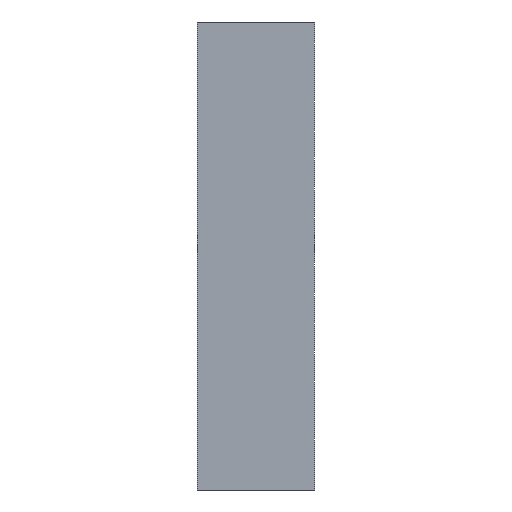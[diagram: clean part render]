
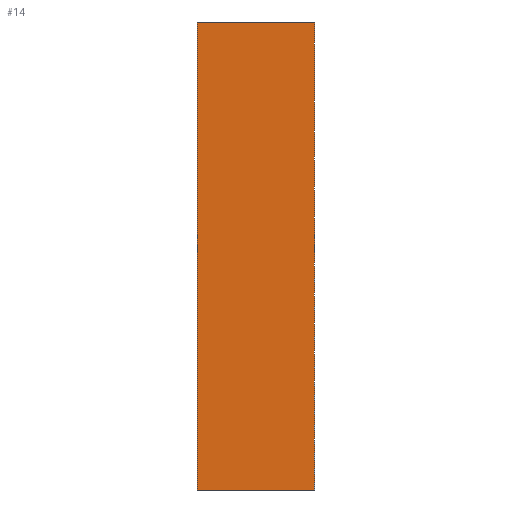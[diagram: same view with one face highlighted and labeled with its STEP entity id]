
A CAD part, front view. The second image highlights one B-rep face of the part: STEP entity #14.
In plain terms, the highlighted planar face has unit normal (0, -1, 0).
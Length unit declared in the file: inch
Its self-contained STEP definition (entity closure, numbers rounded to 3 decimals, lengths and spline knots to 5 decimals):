
#14=ADVANCED_FACE('',(#20),#88,.T.);
#20=FACE_OUTER_BOUND('',#26,.T.);
#26=EDGE_LOOP('',(#32,#33,#34,#35));
#32=ORIENTED_EDGE('',*,*,#56,.T.);
#33=ORIENTED_EDGE('',*,*,#65,.T.);
#34=ORIENTED_EDGE('',*,*,#60,.F.);
#35=ORIENTED_EDGE('',*,*,#64,.F.);
#56=EDGE_CURVE('',#80,#81,#68,.T.);
#60=EDGE_CURVE('',#84,#85,#72,.T.);
#64=EDGE_CURVE('',#80,#84,#76,.T.);
#65=EDGE_CURVE('',#81,#85,#77,.T.);
#68=B_SPLINE_CURVE_WITH_KNOTS('',1,(#217,#218),.UNSPECIFIED.,.F.,.F.,(2,
2),(0.,2.),.UNSPECIFIED.);
#72=B_SPLINE_CURVE_WITH_KNOTS('',1,(#225,#226),.UNSPECIFIED.,.F.,.F.,(2,
2),(0.,2.),.UNSPECIFIED.);
#76=B_SPLINE_CURVE_WITH_KNOTS('',1,(#233,#234),.UNSPECIFIED.,.F.,.F.,(2,
2),(0.,8.),.UNSPECIFIED.);
#77=B_SPLINE_CURVE_WITH_KNOTS('',1,(#235,#236),.UNSPECIFIED.,.F.,.F.,(2,
2),(0.,8.),.UNSPECIFIED.);
#80=VERTEX_POINT('',#209);
#81=VERTEX_POINT('',#210);
#84=VERTEX_POINT('',#213);
#85=VERTEX_POINT('',#214);
#88=PLANE('',#185);
#185=AXIS2_PLACEMENT_3D('',#203,#194,$);
#194=DIRECTION('',(0.,-1.,0.));
#203=CARTESIAN_POINT('',(0.,0.,0.));
#209=CARTESIAN_POINT('',(0.,0.,0.));
#210=CARTESIAN_POINT('',(2.,0.,0.));
#213=CARTESIAN_POINT('',(0.,0.,8.));
#214=CARTESIAN_POINT('',(2.,0.,8.));
#217=CARTESIAN_POINT('',(0.,0.,0.));
#218=CARTESIAN_POINT('',(2.,0.,0.));
#225=CARTESIAN_POINT('',(0.,0.,8.));
#226=CARTESIAN_POINT('',(2.,0.,8.));
#233=CARTESIAN_POINT('',(0.,0.,0.));
#234=CARTESIAN_POINT('',(0.,0.,8.));
#235=CARTESIAN_POINT('',(2.,0.,0.));
#236=CARTESIAN_POINT('',(2.,0.,8.));
